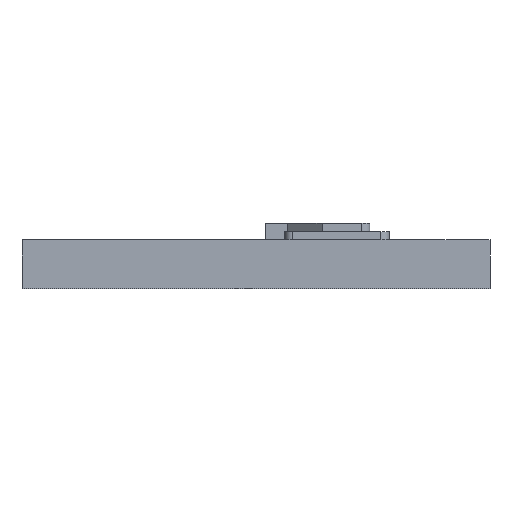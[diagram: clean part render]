
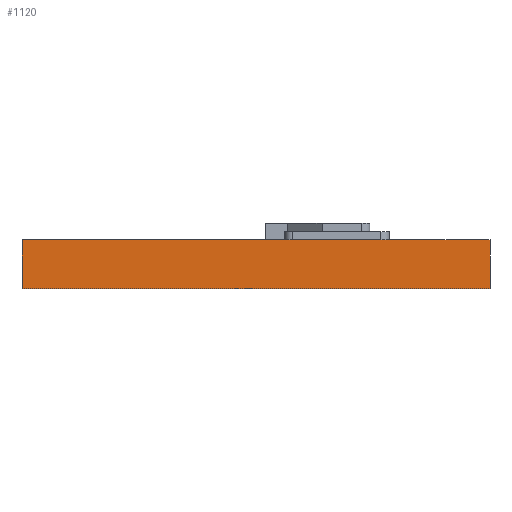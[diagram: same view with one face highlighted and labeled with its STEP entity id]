
A CAD part, front view. The second image highlights one B-rep face of the part: STEP entity #1120.
In plain terms, the highlighted planar face has unit normal (0, -1, 0).
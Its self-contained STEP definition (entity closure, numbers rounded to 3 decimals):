
#32 = PLANE('',#33);
#33 = AXIS2_PLACEMENT_3D('',#34,#35,#36);
#34 = CARTESIAN_POINT('',(-47.,-47.,25.));
#35 = DIRECTION('',(0.,0.,1.));
#36 = DIRECTION('',(1.,0.,-0.));
#57 = VERTEX_POINT('',#58);
#58 = CARTESIAN_POINT('',(18.3,18.3,25.));
#71 = PLANE('',#72);
#72 = AXIS2_PLACEMENT_3D('',#73,#74,#75);
#73 = CARTESIAN_POINT('',(18.3,18.3,18.));
#74 = DIRECTION('',(1.,0.,0.));
#75 = DIRECTION('',(0.,0.,1.));
#82 = EDGE_CURVE('',#83,#57,#85,.T.);
#83 = VERTEX_POINT('',#84);
#84 = CARTESIAN_POINT('',(47.,18.3,25.));
#85 = SURFACE_CURVE('',#86,(#90,#96),.PCURVE_S1.);
#86 = LINE('',#87,#88);
#87 = CARTESIAN_POINT('',(-14.35,18.3,25.));
#88 = VECTOR('',#89,1.);
#89 = DIRECTION('',(-1.,0.,0.));
#90 = PCURVE('',#32,#91);
#91 = DEFINITIONAL_REPRESENTATION('',(#92),#95);
#92 = B_SPLINE_CURVE_WITH_KNOTS('',1,(#93,#94),.UNSPECIFIED.,.F.,.F.,(2,
    2),(-61.35,-32.65),.PIECEWISE_BEZIER_KNOTS.);
#93 = CARTESIAN_POINT('',(94.,65.3));
#94 = CARTESIAN_POINT('',(65.3,65.3));
#95 = ( GEOMETRIC_REPRESENTATION_CONTEXT(2) 
PARAMETRIC_REPRESENTATION_CONTEXT() REPRESENTATION_CONTEXT('2D SPACE',''
  ) );
#96 = PCURVE('',#97,#102);
#97 = PLANE('',#98);
#98 = AXIS2_PLACEMENT_3D('',#99,#100,#101);
#99 = CARTESIAN_POINT('',(18.3,18.3,18.));
#100 = DIRECTION('',(0.,1.,0.));
#101 = DIRECTION('',(0.,0.,1.));
#102 = DEFINITIONAL_REPRESENTATION('',(#103),#106);
#103 = B_SPLINE_CURVE_WITH_KNOTS('',1,(#104,#105),.UNSPECIFIED.,.F.,.F.,
  (2,2),(-61.35,-32.65),.PIECEWISE_BEZIER_KNOTS.);
#104 = CARTESIAN_POINT('',(7.,28.7));
#105 = CARTESIAN_POINT('',(7.,0.));
#106 = ( GEOMETRIC_REPRESENTATION_CONTEXT(2) 
PARAMETRIC_REPRESENTATION_CONTEXT() REPRESENTATION_CONTEXT('2D SPACE',''
  ) );
#124 = PLANE('',#125);
#125 = AXIS2_PLACEMENT_3D('',#126,#127,#128);
#126 = CARTESIAN_POINT('',(47.,-47.,22.));
#127 = DIRECTION('',(1.,0.,0.));
#128 = DIRECTION('',(0.,0.,1.));
#967 = PLANE('',#968);
#968 = AXIS2_PLACEMENT_3D('',#969,#970,#971);
#969 = CARTESIAN_POINT('',(-47.,-47.,22.));
#970 = DIRECTION('',(0.,0.,1.));
#971 = DIRECTION('',(1.,0.,-0.));
#1076 = EDGE_CURVE('',#1077,#83,#1079,.T.);
#1077 = VERTEX_POINT('',#1078);
#1078 = CARTESIAN_POINT('',(47.,18.3,22.));
#1079 = SURFACE_CURVE('',#1080,(#1084,#1091),.PCURVE_S1.);
#1080 = LINE('',#1081,#1082);
#1081 = CARTESIAN_POINT('',(47.,18.3,18.));
#1082 = VECTOR('',#1083,1.);
#1083 = DIRECTION('',(0.,0.,1.));
#1084 = PCURVE('',#124,#1085);
#1085 = DEFINITIONAL_REPRESENTATION('',(#1086),#1090);
#1086 = LINE('',#1087,#1088);
#1087 = CARTESIAN_POINT('',(-4.,-65.3));
#1088 = VECTOR('',#1089,1.);
#1089 = DIRECTION('',(1.,0.));
#1090 = ( GEOMETRIC_REPRESENTATION_CONTEXT(2) 
PARAMETRIC_REPRESENTATION_CONTEXT() REPRESENTATION_CONTEXT('2D SPACE',''
  ) );
#1091 = PCURVE('',#97,#1092);
#1092 = DEFINITIONAL_REPRESENTATION('',(#1093),#1097);
#1093 = LINE('',#1094,#1095);
#1094 = CARTESIAN_POINT('',(0.,28.7));
#1095 = VECTOR('',#1096,1.);
#1096 = DIRECTION('',(1.,0.));
#1097 = ( GEOMETRIC_REPRESENTATION_CONTEXT(2) 
PARAMETRIC_REPRESENTATION_CONTEXT() REPRESENTATION_CONTEXT('2D SPACE',''
  ) );
#1120 = ADVANCED_FACE('',(#1121),#97,.F.);
#1121 = FACE_BOUND('',#1122,.F.);
#1122 = EDGE_LOOP('',(#1123,#1124,#1145,#1166));
#1123 = ORIENTED_EDGE('',*,*,#1076,.F.);
#1124 = ORIENTED_EDGE('',*,*,#1125,.T.);
#1125 = EDGE_CURVE('',#1077,#1126,#1128,.T.);
#1126 = VERTEX_POINT('',#1127);
#1127 = CARTESIAN_POINT('',(18.3,18.3,22.));
#1128 = SURFACE_CURVE('',#1129,(#1133,#1139),.PCURVE_S1.);
#1129 = LINE('',#1130,#1131);
#1130 = CARTESIAN_POINT('',(-14.35,18.3,22.));
#1131 = VECTOR('',#1132,1.);
#1132 = DIRECTION('',(-1.,0.,0.));
#1133 = PCURVE('',#97,#1134);
#1134 = DEFINITIONAL_REPRESENTATION('',(#1135),#1138);
#1135 = B_SPLINE_CURVE_WITH_KNOTS('',1,(#1136,#1137),.UNSPECIFIED.,.F.,
  .F.,(2,2),(-61.35,-32.65),.PIECEWISE_BEZIER_KNOTS.);
#1136 = CARTESIAN_POINT('',(4.,28.7));
#1137 = CARTESIAN_POINT('',(4.,0.));
#1138 = ( GEOMETRIC_REPRESENTATION_CONTEXT(2) 
PARAMETRIC_REPRESENTATION_CONTEXT() REPRESENTATION_CONTEXT('2D SPACE',''
  ) );
#1139 = PCURVE('',#967,#1140);
#1140 = DEFINITIONAL_REPRESENTATION('',(#1141),#1144);
#1141 = B_SPLINE_CURVE_WITH_KNOTS('',1,(#1142,#1143),.UNSPECIFIED.,.F.,
  .F.,(2,2),(-61.35,-32.65),.PIECEWISE_BEZIER_KNOTS.);
#1142 = CARTESIAN_POINT('',(94.,65.3));
#1143 = CARTESIAN_POINT('',(65.3,65.3));
#1144 = ( GEOMETRIC_REPRESENTATION_CONTEXT(2) 
PARAMETRIC_REPRESENTATION_CONTEXT() REPRESENTATION_CONTEXT('2D SPACE',''
  ) );
#1145 = ORIENTED_EDGE('',*,*,#1146,.T.);
#1146 = EDGE_CURVE('',#1126,#57,#1147,.T.);
#1147 = SURFACE_CURVE('',#1148,(#1152,#1159),.PCURVE_S1.);
#1148 = LINE('',#1149,#1150);
#1149 = CARTESIAN_POINT('',(18.3,18.3,18.));
#1150 = VECTOR('',#1151,1.);
#1151 = DIRECTION('',(0.,0.,1.));
#1152 = PCURVE('',#97,#1153);
#1153 = DEFINITIONAL_REPRESENTATION('',(#1154),#1158);
#1154 = LINE('',#1155,#1156);
#1155 = CARTESIAN_POINT('',(0.,0.));
#1156 = VECTOR('',#1157,1.);
#1157 = DIRECTION('',(1.,0.));
#1158 = ( GEOMETRIC_REPRESENTATION_CONTEXT(2) 
PARAMETRIC_REPRESENTATION_CONTEXT() REPRESENTATION_CONTEXT('2D SPACE',''
  ) );
#1159 = PCURVE('',#71,#1160);
#1160 = DEFINITIONAL_REPRESENTATION('',(#1161),#1165);
#1161 = LINE('',#1162,#1163);
#1162 = CARTESIAN_POINT('',(0.,0.));
#1163 = VECTOR('',#1164,1.);
#1164 = DIRECTION('',(1.,0.));
#1165 = ( GEOMETRIC_REPRESENTATION_CONTEXT(2) 
PARAMETRIC_REPRESENTATION_CONTEXT() REPRESENTATION_CONTEXT('2D SPACE',''
  ) );
#1166 = ORIENTED_EDGE('',*,*,#82,.F.);
